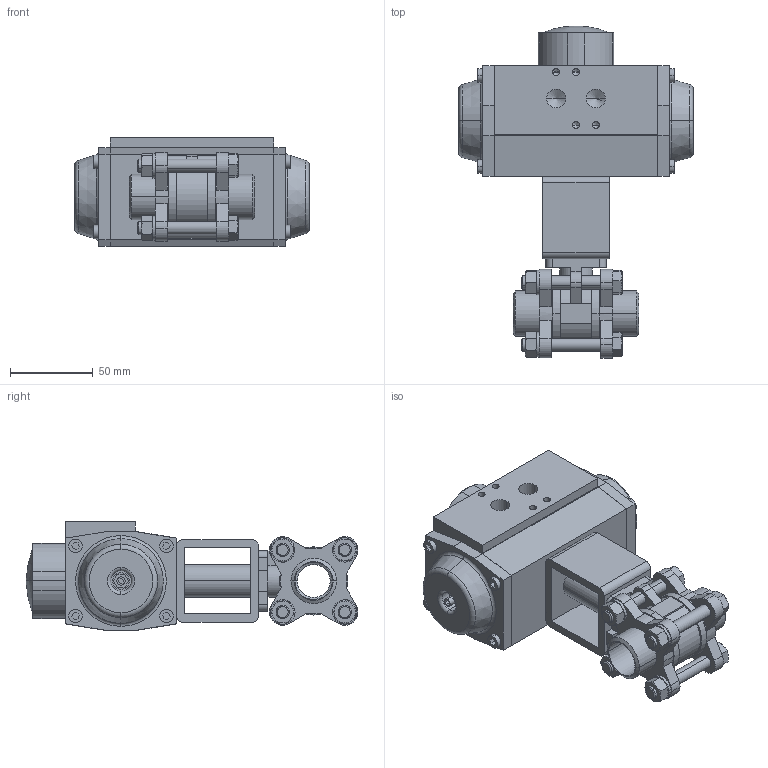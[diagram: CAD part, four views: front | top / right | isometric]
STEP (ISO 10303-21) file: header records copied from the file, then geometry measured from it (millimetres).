
FILE_DESCRIPTION (( 'STEP AP214' ), '1' );
FILE_NAME ('A13 DN20-3_4 BW + AP1D.STEP', '2012-04-23T09:22:47', ( '' ), ( '' ), 'SwSTEP 2.0', 'SolidWorks 2011', '' );
FILE_SCHEMA (( 'AUTOMOTIVE_DESIGN' ));
Length unit declared in the file: millimetre
Products named in the file (9): AP1_Default<As Machined>; Brugstuk simplified_YB5050F3F4-3; A13 DN20 Buttweld; ISO 4016 - M8 x 55 x 22-NN_ISO 4016 - M8 x 55 x 22-NN; Hexagon Nut ISO 4032 - M8 - D - N_Hexagon Nut ISO 4032 - M8 - D - N; Spring washer DIN 128 - A8_Spring washer DIN 128 - A8; A13 Flens Buttweld DN20; A13 KK DN20 PN63; A13 DN20-3_4 BW + AP1D
Assembly tree (18 placements, depth 3):
  A13 DN20-3_4 BW + AP1D
    Brugstuk simplified_YB5050F3F4-3
    A13 DN20 Buttweld
      ISO 4016 - M8 x 55 x 22-NN_ISO 4016 - M8 x 55 x 22-NN  x4
      Hexagon Nut ISO 4032 - M8 - D - N_Hexagon Nut ISO 4032 - M8 - D - N  x4
      Spring washer DIN 128 - A8_Spring washer DIN 128 - A8  x4
      A13 KK DN20 PN63
      A13 Flens Buttweld DN20  x2
    AP1_Default<As Machined>
Bounding box: 142 x 201 x 66 mm (x, y, z)
Volume: 703922.1 mm3; surface area: 121573.6 mm2
Topology: 27 solids, 27 shells, 713 faces, 1692 edges, 1053 vertices
Faces by surface type: plane 348, cylinder 191, cone 152, torus 20, sphere 2
Entity records: 16417 total; most frequent: CARTESIAN_POINT 2808, DIRECTION 2574, ORIENTED_EDGE 2388, EDGE_CURVE 1194, AXIS2_PLACEMENT_3D 897, LINE 780, VECTOR 780, VERTEX_POINT 773
